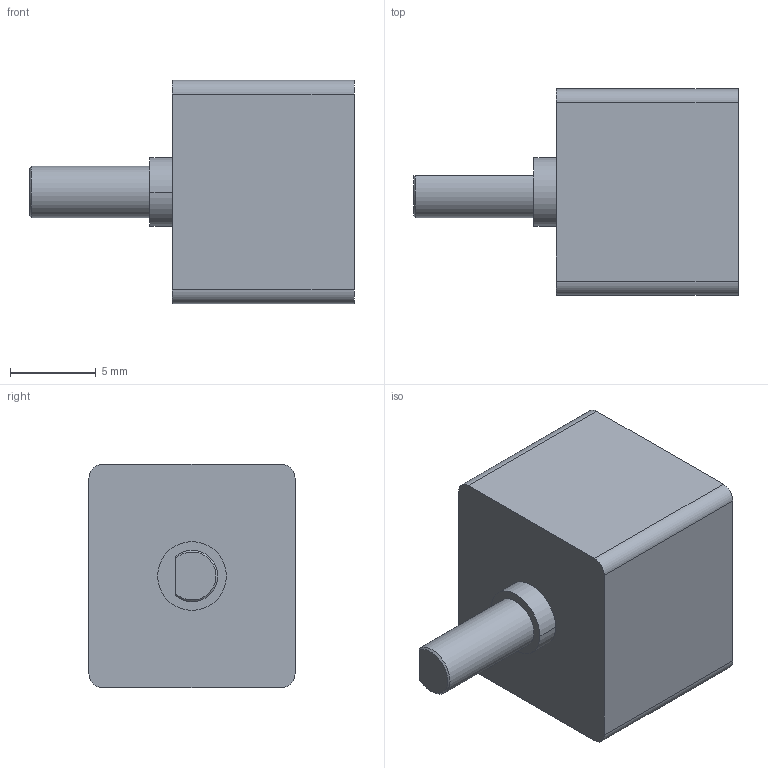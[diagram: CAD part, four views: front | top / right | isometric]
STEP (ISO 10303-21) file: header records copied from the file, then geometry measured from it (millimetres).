
FILE_DESCRIPTION (( 'STEP AP203' ), '1' );
FILE_NAME ('RA-13W-1~4stage.STEP', '2023-05-04T03:56:41', ( '' ), ( '' ), 'SwSTEP 2.0', 'SolidWorks 2019', '' );
FILE_SCHEMA (( 'CONFIG_CONTROL_DESIGN' ));
Length unit declared in the file: millimetre
Products named in the file (1): RA-13W-1~4stage
Bounding box: 18.9 x 12 x 13 mm (x, y, z)
Volume: 1707.3 mm3; surface area: 905.9 mm2
Topology: 1 solids, 1 shells, 17 faces, 39 edges, 26 vertices
Faces by surface type: plane 9, cylinder 7, cone 1
Entity records: 567 total; most frequent: CARTESIAN_POINT 89, DIRECTION 88, ORIENTED_EDGE 78, EDGE_CURVE 39, AXIS2_PLACEMENT_3D 33, VERTEX_POINT 26, LINE 22, VECTOR 22
